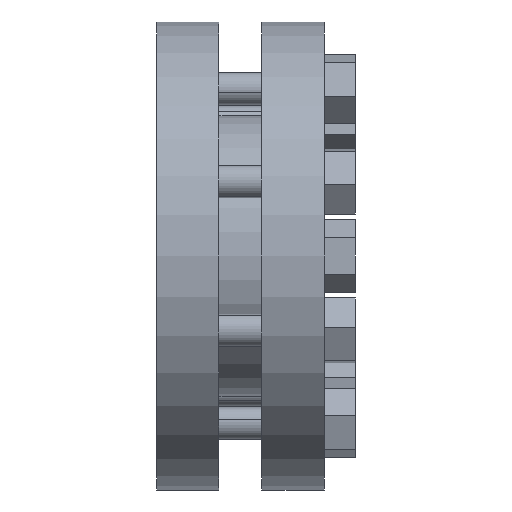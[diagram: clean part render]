
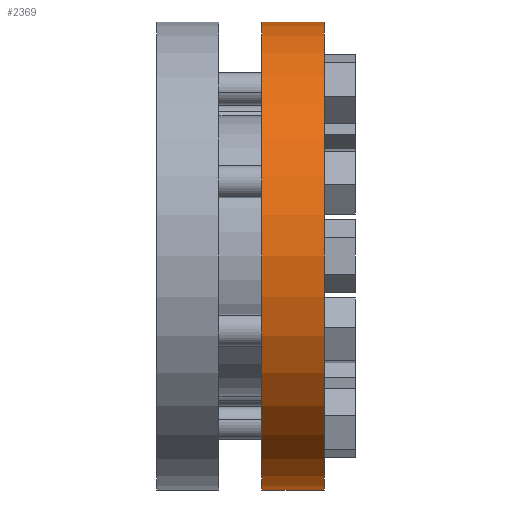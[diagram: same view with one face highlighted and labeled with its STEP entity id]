
A CAD part, front view. The second image highlights one B-rep face of the part: STEP entity #2369.
In plain terms, the highlighted cylindrical face has radius 30 mm (diameter 60 mm), a partial arc.
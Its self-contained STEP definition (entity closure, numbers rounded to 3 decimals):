
#287 = DIRECTION ( 'NONE',  ( 0., 0., 1. ) ) ;
#288 = DIRECTION ( 'NONE',  ( -1., 0., 0. ) ) ;
#289 = CARTESIAN_POINT ( 'NONE',  ( 13.5, 0., 0. ) ) ;
#290 = AXIS2_PLACEMENT_3D ( 'NONE', #289, #288, #287 ) ;
#291 = DIRECTION ( 'NONE',  ( 0., 0., 1. ) ) ;
#292 = DIRECTION ( 'NONE',  ( -1., 0., 0. ) ) ;
#293 = AXIS2_PLACEMENT_3D ( 'NONE', #296, #292, #291 ) ;
#294 = CYLINDRICAL_SURFACE ( 'NONE', #293, 30. ) ;
#295 = CIRCLE ( 'NONE', #290, 30. ) ;
#296 = CARTESIAN_POINT ( 'NONE',  ( 0., 0., 0. ) ) ;
#297 = FACE_OUTER_BOUND ( 'NONE', #2370, .T. ) ;
#373 = DIRECTION ( 'NONE',  ( 0., 0., 1. ) ) ;
#374 = DIRECTION ( 'NONE',  ( -1., 0., 0. ) ) ;
#375 = CARTESIAN_POINT ( 'NONE',  ( 21.5, 0., 0. ) ) ;
#376 = AXIS2_PLACEMENT_3D ( 'NONE', #375, #374, #373 ) ;
#377 = CIRCLE ( 'NONE', #376, 30. ) ;
#397 = CARTESIAN_POINT ( 'NONE',  ( 13.5, 0., -30. ) ) ;
#398 = DIRECTION ( 'NONE',  ( -1., 0., 0. ) ) ;
#399 = VECTOR ( 'NONE', #398, 1000. ) ;
#400 = CARTESIAN_POINT ( 'NONE',  ( 0., 0., -30. ) ) ;
#401 = LINE ( 'NONE', #400, #399 ) ;
#402 = CARTESIAN_POINT ( 'NONE',  ( 21.5, 0., -30. ) ) ;
#416 = CARTESIAN_POINT ( 'NONE',  ( 21.5, 0., 30. ) ) ;
#555 = DIRECTION ( 'NONE',  ( -1., 0., 0. ) ) ;
#610 = LINE ( 'NONE', #638, #637 ) ;
#611 = CARTESIAN_POINT ( 'NONE',  ( 13.5, 0., 30. ) ) ;
#637 = VECTOR ( 'NONE', #555, 1000. ) ;
#638 = CARTESIAN_POINT ( 'NONE',  ( 0., 0., 30. ) ) ;
#2332 = VERTEX_POINT ( 'NONE', #416 ) ;
#2369 = ADVANCED_FACE ( 'NONE', ( #297 ), #294, .T. ) ;
#2370 = EDGE_LOOP ( 'NONE', ( #2371, #2372, #2373, #2374 ) ) ;
#2371 = ORIENTED_EDGE ( 'NONE', *, *, #2436, .F. ) ;
#2372 = ORIENTED_EDGE ( 'NONE', *, *, #2424, .T. ) ;
#2373 = ORIENTED_EDGE ( 'NONE', *, *, #2442, .T. ) ;
#2374 = ORIENTED_EDGE ( 'NONE', *, *, #2375, .F. ) ;
#2375 = EDGE_CURVE ( 'NONE', #2437, #2440, #295, .T. ) ;
#2424 = EDGE_CURVE ( 'NONE', #2434, #2332, #377, .T. ) ;
#2434 = VERTEX_POINT ( 'NONE', #402 ) ;
#2436 = EDGE_CURVE ( 'NONE', #2434, #2437, #401, .T. ) ;
#2437 = VERTEX_POINT ( 'NONE', #397 ) ;
#2440 = VERTEX_POINT ( 'NONE', #611 ) ;
#2442 = EDGE_CURVE ( 'NONE', #2332, #2440, #610, .T. ) ;
